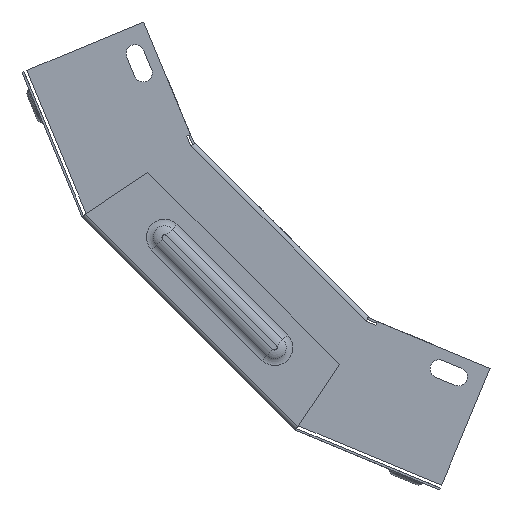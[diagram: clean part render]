
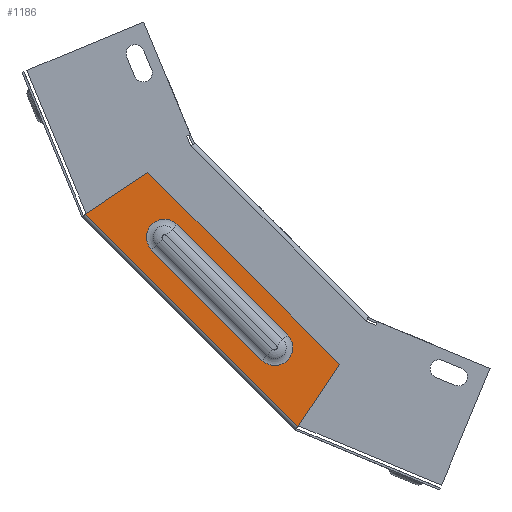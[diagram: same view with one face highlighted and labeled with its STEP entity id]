
A CAD part, left-side view. The second image highlights one B-rep face of the part: STEP entity #1186.
In plain terms, the highlighted planar face has unit normal (-1, 0, 0).
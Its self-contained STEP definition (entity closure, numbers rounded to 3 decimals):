
#25 = CARTESIAN_POINT ( 'NONE',  ( -25.8, 13.896, -87.635 ) ) ;
#101 = VECTOR ( 'NONE', #829, 1000. ) ;
#129 = CARTESIAN_POINT ( 'NONE',  ( -25.8, 71.413, -71.413 ) ) ;
#405 = DIRECTION ( 'NONE',  ( 0., -0.707, -0.707 ) ) ;
#430 = EDGE_LOOP ( 'NONE', ( #9432, #6652, #6085, #6192 ) ) ;
#602 = VERTEX_POINT ( 'NONE', #5248 ) ;
#709 = FACE_OUTER_BOUND ( 'NONE', #430, .T. ) ;
#730 = DIRECTION ( 'NONE',  ( 0., 0.707, 0.707 ) ) ;
#829 = DIRECTION ( 'NONE',  ( 0., 0.707, 0.707 ) ) ;
#1060 = EDGE_CURVE ( 'NONE', #602, #8466, #7931, .T. ) ;
#1186 = ADVANCED_FACE ( 'NONE', ( #3684, #709 ), #7070, .F. ) ;
#1614 = CIRCLE ( 'NONE', #5015, 6.917 ) ;
#1667 = CARTESIAN_POINT ( 'NONE',  ( -25.8, 13.896, -87.635 ) ) ;
#1862 = LINE ( 'NONE', #1667, #2314 ) ;
#2314 = VECTOR ( 'NONE', #8558, 1000. ) ;
#2433 = EDGE_CURVE ( 'NONE', #8466, #12436, #12424, .T. ) ;
#3004 = AXIS2_PLACEMENT_3D ( 'NONE', #129, #10314, #12327 ) ;
#3333 = DIRECTION ( 'NONE',  ( 0., 0.707, 0.707 ) ) ;
#3378 = VERTEX_POINT ( 'NONE', #8575 ) ;
#3684 = FACE_BOUND ( 'NONE', #6674, .T. ) ;
#3757 = CARTESIAN_POINT ( 'NONE',  ( -25.8, 87.635, -13.896 ) ) ;
#4008 = ORIENTED_EDGE ( 'NONE', *, *, #2433, .T. ) ;
#4563 = ORIENTED_EDGE ( 'NONE', *, *, #10913, .T. ) ;
#4774 = EDGE_CURVE ( 'NONE', #5593, #4807, #7171, .T. ) ;
#4807 = VERTEX_POINT ( 'NONE', #3757 ) ;
#5015 = AXIS2_PLACEMENT_3D ( 'NONE', #12057, #9069, #11449 ) ;
#5248 = CARTESIAN_POINT ( 'NONE',  ( -25.8, 86.133, -43.706 ) ) ;
#5441 = CARTESIAN_POINT ( 'NONE',  ( -25.8, 81.242, -38.815 ) ) ;
#5576 = CARTESIAN_POINT ( 'NONE',  ( -25.8, 76.351, -33.924 ) ) ;
#5593 = VERTEX_POINT ( 'NONE', #25 ) ;
#5828 = EDGE_CURVE ( 'NONE', #3378, #4807, #10235, .T. ) ;
#6085 = ORIENTED_EDGE ( 'NONE', *, *, #5828, .F. ) ;
#6192 = ORIENTED_EDGE ( 'NONE', *, *, #6751, .F. ) ;
#6239 = VERTEX_POINT ( 'NONE', #11568 ) ;
#6652 = ORIENTED_EDGE ( 'NONE', *, *, #4774, .T. ) ;
#6674 = EDGE_LOOP ( 'NONE', ( #4563, #8779, #4008, #9453 ) ) ;
#6751 = EDGE_CURVE ( 'NONE', #11162, #3378, #9254, .T. ) ;
#7070 = PLANE ( 'NONE',  #3004 ) ;
#7171 = LINE ( 'NONE', #12857, #101 ) ;
#7931 = CIRCLE ( 'NONE', #11545, 6.917 ) ;
#8466 = VERTEX_POINT ( 'NONE', #9697 ) ;
#8474 = DIRECTION ( 'NONE',  ( 1., 0., 0. ) ) ;
#8558 = DIRECTION ( 'NONE',  ( 0., 0.556, -0.831 ) ) ;
#8575 = CARTESIAN_POINT ( 'NONE',  ( -25.8, 111.542, -29.87 ) ) ;
#8579 = CARTESIAN_POINT ( 'NONE',  ( -25.8, 111.542, -29.87 ) ) ;
#8750 = EDGE_CURVE ( 'NONE', #12436, #6239, #1614, .T. ) ;
#8779 = ORIENTED_EDGE ( 'NONE', *, *, #1060, .T. ) ;
#8945 = VECTOR ( 'NONE', #730, 1000. ) ;
#9069 = DIRECTION ( 'NONE',  ( 1., 0., 0. ) ) ;
#9254 = LINE ( 'NONE', #8579, #8945 ) ;
#9313 = CARTESIAN_POINT ( 'NONE',  ( -25.8, 33.924, -76.351 ) ) ;
#9432 = ORIENTED_EDGE ( 'NONE', *, *, #11011, .F. ) ;
#9453 = ORIENTED_EDGE ( 'NONE', *, *, #8750, .T. ) ;
#9604 = CARTESIAN_POINT ( 'NONE',  ( -25.8, 87.635, -13.896 ) ) ;
#9697 = CARTESIAN_POINT ( 'NONE',  ( -25.8, 76.351, -33.924 ) ) ;
#10235 = LINE ( 'NONE', #9604, #10694 ) ;
#10314 = DIRECTION ( 'NONE',  ( 1., 0., 0. ) ) ;
#10609 = VECTOR ( 'NONE', #3333, 1000. ) ;
#10692 = DIRECTION ( 'NONE',  ( 0., -0.707, -0.707 ) ) ;
#10694 = VECTOR ( 'NONE', #12550, 1000. ) ;
#10913 = EDGE_CURVE ( 'NONE', #6239, #602, #12456, .T. ) ;
#11011 = EDGE_CURVE ( 'NONE', #5593, #11162, #1862, .T. ) ;
#11162 = VERTEX_POINT ( 'NONE', #12775 ) ;
#11181 = VECTOR ( 'NONE', #405, 1000. ) ;
#11310 = CARTESIAN_POINT ( 'NONE',  ( -25.8, 86.133, -43.706 ) ) ;
#11449 = DIRECTION ( 'NONE',  ( 0., -0.707, -0.707 ) ) ;
#11545 = AXIS2_PLACEMENT_3D ( 'NONE', #5441, #8474, #10692 ) ;
#11568 = CARTESIAN_POINT ( 'NONE',  ( -25.8, 43.706, -86.133 ) ) ;
#12057 = CARTESIAN_POINT ( 'NONE',  ( -25.8, 38.815, -81.242 ) ) ;
#12327 = DIRECTION ( 'NONE',  ( 0., 1., 0. ) ) ;
#12424 = LINE ( 'NONE', #5576, #11181 ) ;
#12436 = VERTEX_POINT ( 'NONE', #9313 ) ;
#12456 = LINE ( 'NONE', #11310, #10609 ) ;
#12550 = DIRECTION ( 'NONE',  ( 0., -0.831, 0.556 ) ) ;
#12775 = CARTESIAN_POINT ( 'NONE',  ( -25.8, 29.87, -111.542 ) ) ;
#12857 = CARTESIAN_POINT ( 'NONE',  ( -25.8, 50.765, -50.765 ) ) ;
